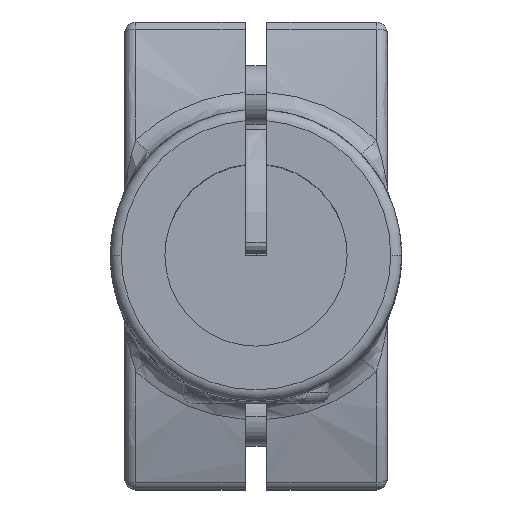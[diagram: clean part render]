
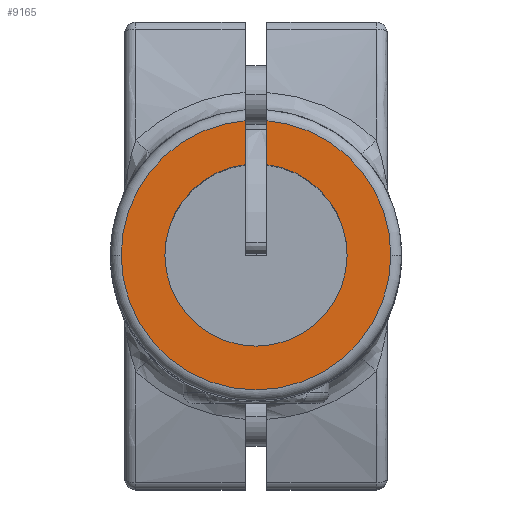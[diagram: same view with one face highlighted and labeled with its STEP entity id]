
A CAD part, top view. The second image highlights one B-rep face of the part: STEP entity #9165.
In plain terms, the highlighted planar face has unit normal (0, 0, 1) as drawn and (0, 0, -1) by its records, which use the part's own axes.
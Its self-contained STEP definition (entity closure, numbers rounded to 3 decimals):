
#361 = EDGE_CURVE ( 'NONE', #5821, #1685, #16113, .T. ) ;
#642 = CARTESIAN_POINT ( 'NONE',  ( 1.5, 12.41, 0. ) ) ;
#1075 = ORIENTED_EDGE ( 'NONE', *, *, #19488, .T. ) ;
#1520 = VERTEX_POINT ( 'NONE', #11932 ) ;
#1523 = CIRCLE ( 'NONE', #15925, 18.5 ) ;
#1685 = VERTEX_POINT ( 'NONE', #17633 ) ;
#2174 = DIRECTION ( 'NONE',  ( 0., 0., 1. ) ) ;
#2630 = AXIS2_PLACEMENT_3D ( 'NONE', #14042, #16759, #6249 ) ;
#2675 = CARTESIAN_POINT ( 'NONE',  ( -1.5, 18.439, 0. ) ) ;
#3044 = AXIS2_PLACEMENT_3D ( 'NONE', #18410, #9386, #18613 ) ;
#3606 = DIRECTION ( 'NONE',  ( -1., 0., 0. ) ) ;
#3647 = CARTESIAN_POINT ( 'NONE',  ( -1.5, 12.41, 0. ) ) ;
#3884 = DIRECTION ( 'NONE',  ( 1., 0., 0. ) ) ;
#4034 = VERTEX_POINT ( 'NONE', #2675 ) ;
#4218 = EDGE_CURVE ( 'NONE', #12521, #6060, #1523, .T. ) ;
#4818 = ORIENTED_EDGE ( 'NONE', *, *, #361, .T. ) ;
#5293 = ORIENTED_EDGE ( 'NONE', *, *, #15526, .F. ) ;
#5346 = DIRECTION ( 'NONE',  ( 0., 1., 0. ) ) ;
#5821 = VERTEX_POINT ( 'NONE', #3647 ) ;
#6060 = VERTEX_POINT ( 'NONE', #13846 ) ;
#6249 = DIRECTION ( 'NONE',  ( -1., 0., 0. ) ) ;
#8019 = CIRCLE ( 'NONE', #13146, 18.5 ) ;
#8058 = CARTESIAN_POINT ( 'NONE',  ( -18.5, 0., 0. ) ) ;
#8186 = ORIENTED_EDGE ( 'NONE', *, *, #10290, .T. ) ;
#8411 = CIRCLE ( 'NONE', #2630, 12.5 ) ;
#9152 = DIRECTION ( 'NONE',  ( 0., 0., 1. ) ) ;
#9165 = ADVANCED_FACE ( 'NONE', ( #11513 ), #18943, .F. ) ;
#9261 = ORIENTED_EDGE ( 'NONE', *, *, #10259, .T. ) ;
#9369 = AXIS2_PLACEMENT_3D ( 'NONE', #16106, #2174, #3884 ) ;
#9386 = DIRECTION ( 'NONE',  ( 0., 0., -1. ) ) ;
#9527 = VECTOR ( 'NONE', #5346, 1000. ) ;
#9894 = ORIENTED_EDGE ( 'NONE', *, *, #18299, .T. ) ;
#10015 = CARTESIAN_POINT ( 'NONE',  ( 1.5, 0., 0. ) ) ;
#10259 = EDGE_CURVE ( 'NONE', #1520, #17290, #8411, .T. ) ;
#10290 = EDGE_CURVE ( 'NONE', #1685, #1520, #12255, .T. ) ;
#10378 = VECTOR ( 'NONE', #14615, 1000. ) ;
#11042 = ORIENTED_EDGE ( 'NONE', *, *, #16683, .F. ) ;
#11513 = FACE_OUTER_BOUND ( 'NONE', #11712, .T. ) ;
#11712 = EDGE_LOOP ( 'NONE', ( #11042, #19700, #1075, #9894, #5293, #4818, #8186, #9261 ) ) ;
#11786 = DIRECTION ( 'NONE',  ( 1., 0., 0. ) ) ;
#11932 = CARTESIAN_POINT ( 'NONE',  ( 12.5, 0., 0. ) ) ;
#12255 = CIRCLE ( 'NONE', #13535, 12.5 ) ;
#12521 = VERTEX_POINT ( 'NONE', #14229 ) ;
#12877 = CARTESIAN_POINT ( 'NONE',  ( -1.5, 0., 0. ) ) ;
#12971 = LINE ( 'NONE', #12877, #9527 ) ;
#12999 = VERTEX_POINT ( 'NONE', #8058 ) ;
#13146 = AXIS2_PLACEMENT_3D ( 'NONE', #19589, #14947, #18286 ) ;
#13299 = CARTESIAN_POINT ( 'NONE',  ( 0., 0., 0. ) ) ;
#13535 = AXIS2_PLACEMENT_3D ( 'NONE', #18287, #9152, #3606 ) ;
#13573 = AXIS2_PLACEMENT_3D ( 'NONE', #18157, #13638, #15128 ) ;
#13638 = DIRECTION ( 'NONE',  ( 0., 0., 1. ) ) ;
#13846 = CARTESIAN_POINT ( 'NONE',  ( 18.5, 0., 0. ) ) ;
#14042 = CARTESIAN_POINT ( 'NONE',  ( 0., 0., 0. ) ) ;
#14229 = CARTESIAN_POINT ( 'NONE',  ( 1.5, 18.439, 0. ) ) ;
#14583 = DIRECTION ( 'NONE',  ( 0., 0., -1. ) ) ;
#14615 = DIRECTION ( 'NONE',  ( 0., -1., 0. ) ) ;
#14947 = DIRECTION ( 'NONE',  ( 0., 0., -1. ) ) ;
#15128 = DIRECTION ( 'NONE',  ( -1., 0., 0. ) ) ;
#15526 = EDGE_CURVE ( 'NONE', #5821, #4034, #12971, .T. ) ;
#15925 = AXIS2_PLACEMENT_3D ( 'NONE', #13299, #14583, #11786 ) ;
#16106 = CARTESIAN_POINT ( 'NONE',  ( 0., 0., 0. ) ) ;
#16113 = CIRCLE ( 'NONE', #13573, 12.5 ) ;
#16497 = CIRCLE ( 'NONE', #3044, 18.5 ) ;
#16683 = EDGE_CURVE ( 'NONE', #12521, #17290, #19258, .T. ) ;
#16759 = DIRECTION ( 'NONE',  ( 0., 0., 1. ) ) ;
#17290 = VERTEX_POINT ( 'NONE', #642 ) ;
#17633 = CARTESIAN_POINT ( 'NONE',  ( -12.5, 0., 0. ) ) ;
#18157 = CARTESIAN_POINT ( 'NONE',  ( 0., 0., 0. ) ) ;
#18286 = DIRECTION ( 'NONE',  ( 1., 0., 0. ) ) ;
#18287 = CARTESIAN_POINT ( 'NONE',  ( 0., 0., 0. ) ) ;
#18299 = EDGE_CURVE ( 'NONE', #12999, #4034, #16497, .T. ) ;
#18410 = CARTESIAN_POINT ( 'NONE',  ( 0., 0., 0. ) ) ;
#18613 = DIRECTION ( 'NONE',  ( 1., 0., 0. ) ) ;
#18943 = PLANE ( 'NONE',  #9369 ) ;
#19258 = LINE ( 'NONE', #10015, #10378 ) ;
#19488 = EDGE_CURVE ( 'NONE', #6060, #12999, #8019, .T. ) ;
#19589 = CARTESIAN_POINT ( 'NONE',  ( 0., 0., 0. ) ) ;
#19700 = ORIENTED_EDGE ( 'NONE', *, *, #4218, .T. ) ;
